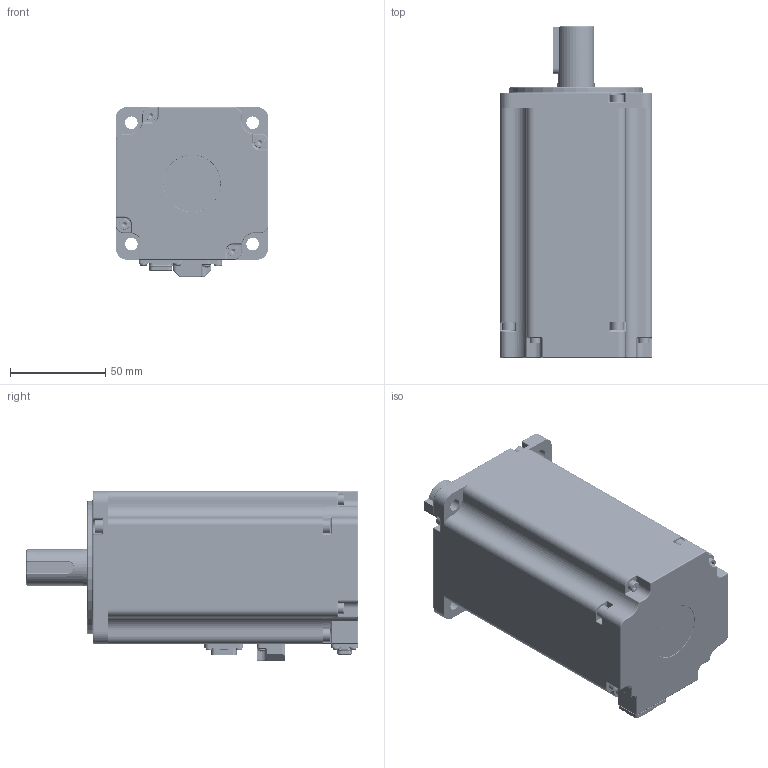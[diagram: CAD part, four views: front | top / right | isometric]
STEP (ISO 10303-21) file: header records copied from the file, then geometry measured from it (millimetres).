
FILE_DESCRIPTION (( 'STEP AP214' ), '1' );
FILE_NAME ('V7E-L08A-R7530-D2.STEP', '2021-08-05T09:14:30', ( '' ), ( '' ), 'SwSTEP 2.0', 'SolidWorks 2014', '' );
FILE_SCHEMA (( 'AUTOMOTIVE_DESIGN' ));
Length unit declared in the file: millimetre
Products named in the file (26): 750W隅赽郪璃; V7E-L08A-R7530-D2; 囀鞠褒 M3X8; 80#陔晤鎢ん欶躇猾菜; 囀鞠褒 ISO 4762 M4 x12--20201221; 80#陔晤鎢ん欶; 60-80蚳蚚雄薯脣釱-sc-mc6p-ac-goubanchazuo; 坋趼苤攫芛ISO 7045 - M2 x 5; 40#价陬裔躇猾菜; 囀鞠褒 ISO 4762 M3 x 12 --- 12N; 750w儂褲; 后轴承 GB／T276-94深沟球轴承6002-2Z; 80#陔粣-750W-价陬粣; SC40陔晤鎢ん瑤脣釱sc-mc7p-a6-zhichuxianchazuo; 前轴承 GB／T276-94深沟球轴承6004-2Z; 40#价陬堤盄揤盄裔; 粟菜 M3; 囀鞠褒 ISO 4762 M4 x45  - 201222; 蚐猾 D00B999YF5-TC 20-30-5-1; 坋趼苤攫芛ISO 7045 - M2 x 5201611; 80#新O型圈 -71内径-直径2; 平键^750W电机组件-带刹车; 80#陔ヶ傷裔; 80#陔綴傷裔-价陬遴; 囀鞠褒 M4X16; す菜 M3
Assembly tree (38 placements, depth 3):
  V7E-L08A-R7530-D2
    750W隅赽郪璃
      750w儂褲
      80#陔ヶ傷裔
      60-80蚳蚚雄薯脣釱-sc-mc6p-ac-goubanchazuo
    80#陔綴傷裔-价陬遴
    40#价陬堤盄揤盄裔
    40#价陬裔躇猾菜
    坋趼苤攫芛ISO 7045 - M2 x 5201611
    坋趼苤攫芛ISO 7045 - M2 x 5
    80#陔晤鎢ん欶躇猾菜
    80#陔晤鎢ん欶
    后轴承 GB／T276-94深沟球轴承6002-2Z
    前轴承 GB／T276-94深沟球轴承6004-2Z
    蚐猾 D00B999YF5-TC 20-30-5-1
    80#新O型圈 -71内径-直径2  x2
    SC40陔晤鎢ん瑤脣釱sc-mc7p-a6-zhichuxianchazuo
    80#陔粣-750W-价陬粣
    囀鞠褒 M3X8  x2
    囀鞠褒 ISO 4762 M4 x12--20201221  x4
    囀鞠褒 ISO 4762 M4 x45  - 201222  x4
    す菜 M3
    粟菜 M3
    囀鞠褒 M4X16  x3
    囀鞠褒 ISO 4762 M3 x 12 --- 12N  x4
    平键^750W电机组件-带刹车
Bounding box: 80 x 174 x 89 mm (x, y, z)
Volume: 324183 mm3; surface area: 171314.2 mm2
Topology: 46 solids, 46 shells, 4978 faces, 12566 edges, 7677 vertices
Faces by surface type: plane 2128, cylinder 1602, bspline 375, torus 325, sphere 277, cone 271
Entity records: 176324 total; most frequent: CARTESIAN_POINT 58962, ORIENTED_EDGE 23384, DIRECTION 22783, EDGE_CURVE 11692, AXIS2_PLACEMENT_3D 8279, VERTEX_POINT 7243, VECTOR 6225, LINE 6225
